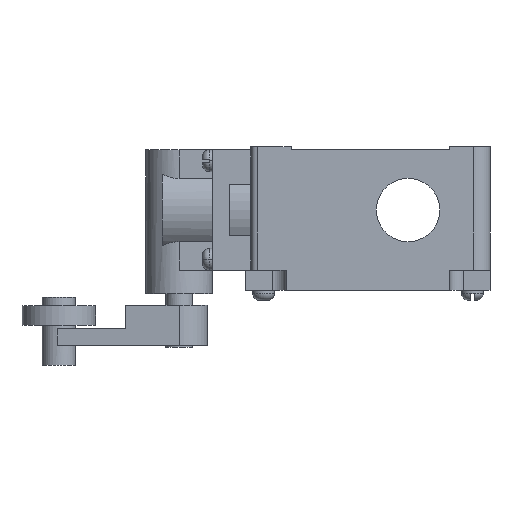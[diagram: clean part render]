
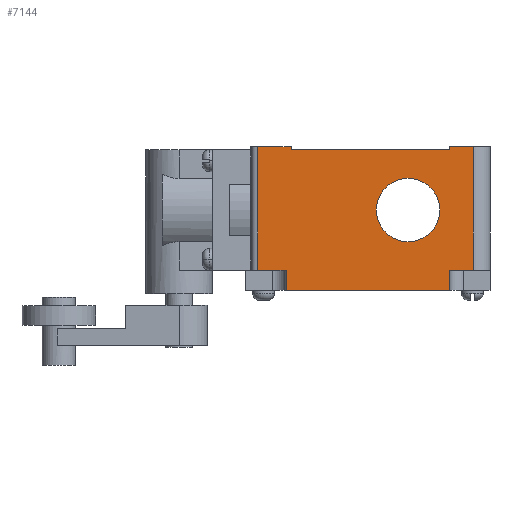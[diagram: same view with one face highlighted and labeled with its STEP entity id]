
A CAD part, front view. The second image highlights one B-rep face of the part: STEP entity #7144.
In plain terms, the highlighted planar face has unit normal (0, -1, 0).
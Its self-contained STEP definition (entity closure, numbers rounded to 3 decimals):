
#273 = DIRECTION ( 'NONE',  ( 0., 1., 0. ) ) ;
#276 = DIRECTION ( 'NONE',  ( -1., 0., 0. ) ) ;
#277 = CARTESIAN_POINT ( 'NONE',  ( 17., -20., 24. ) ) ;
#399 = LINE ( 'NONE', #3375, #403 ) ;
#403 = VECTOR ( 'NONE', #3370, 1000. ) ;
#552 = CIRCLE ( 'NONE', #2007, 9.5 ) ;
#664 = VECTOR ( 'NONE', #7501, 1000. ) ;
#873 = AXIS2_PLACEMENT_3D ( 'NONE', #5830, #5831, #5832 ) ;
#968 = AXIS2_PLACEMENT_3D ( 'NONE', #2678, #2687, #2688 ) ;
#1046 = CARTESIAN_POINT ( 'NONE',  ( 29.5, -20., 0. ) ) ;
#1047 = CARTESIAN_POINT ( 'NONE',  ( -19.5, -20., 0. ) ) ;
#1090 = CARTESIAN_POINT ( 'NONE',  ( -19.5, -20., 6. ) ) ;
#1091 = CARTESIAN_POINT ( 'NONE',  ( -28., -20., 6. ) ) ;
#1130 = CARTESIAN_POINT ( 'NONE',  ( -28., -20., 43. ) ) ;
#1135 = CARTESIAN_POINT ( 'NONE',  ( -18., -20., 43. ) ) ;
#1136 = CARTESIAN_POINT ( 'NONE',  ( 29.5, -20., 43. ) ) ;
#1138 = CARTESIAN_POINT ( 'NONE',  ( 36.5, -20., 43. ) ) ;
#1150 = CARTESIAN_POINT ( 'NONE',  ( 29.5, -20., 42. ) ) ;
#1151 = CARTESIAN_POINT ( 'NONE',  ( 29.5, -20., 6. ) ) ;
#1153 = CARTESIAN_POINT ( 'NONE',  ( 36.5, -20., 6. ) ) ;
#1155 = CARTESIAN_POINT ( 'NONE',  ( -18., -20., 42. ) ) ;
#1325 = EDGE_CURVE ( 'NONE', #5407, #5406, #399, .T. ) ;
#1422 = EDGE_CURVE ( 'NONE', #3868, #3869, #552, .T. ) ;
#1857 = EDGE_CURVE ( 'NONE', #5450, #5451, #4257, .T. ) ;
#1860 = EDGE_CURVE ( 'NONE', #5513, #5498, #4262, .T. ) ;
#2007 = AXIS2_PLACEMENT_3D ( 'NONE', #277, #273, #276 ) ;
#2291 = DIRECTION ( 'NONE',  ( 0., 0., 1. ) ) ;
#2293 = CARTESIAN_POINT ( 'NONE',  ( 36.5, -20., 43. ) ) ;
#2305 = DIRECTION ( 'NONE',  ( -1., 0., 0. ) ) ;
#2307 = CARTESIAN_POINT ( 'NONE',  ( -30., -20., 6. ) ) ;
#2678 = CARTESIAN_POINT ( 'NONE',  ( -41.5, -20., 43. ) ) ;
#2682 = PLANE ( 'NONE',  #968 ) ;
#2687 = DIRECTION ( 'NONE',  ( 0., 1., 0. ) ) ;
#2688 = DIRECTION ( 'NONE',  ( -1., 0., 0. ) ) ;
#3136 = EDGE_LOOP ( 'NONE', ( #3226, #3227, #3228, #3229, #3230, #3231, #3232, #3233, #3234, #3235, #3236, #3237 ) ) ;
#3137 = EDGE_LOOP ( 'NONE', ( #3224, #3225 ) ) ;
#3224 = ORIENTED_EDGE ( 'NONE', *, *, #4585, .T. ) ;
#3225 = ORIENTED_EDGE ( 'NONE', *, *, #1422, .T. ) ;
#3226 = ORIENTED_EDGE ( 'NONE', *, *, #4536, .F. ) ;
#3227 = ORIENTED_EDGE ( 'NONE', *, *, #1860, .T. ) ;
#3228 = ORIENTED_EDGE ( 'NONE', *, *, #4626, .F. ) ;
#3229 = ORIENTED_EDGE ( 'NONE', *, *, #4539, .F. ) ;
#3230 = ORIENTED_EDGE ( 'NONE', *, *, #5263, .F. ) ;
#3231 = ORIENTED_EDGE ( 'NONE', *, *, #5264, .T. ) ;
#3232 = ORIENTED_EDGE ( 'NONE', *, *, #4631, .F. ) ;
#3233 = ORIENTED_EDGE ( 'NONE', *, *, #5265, .T. ) ;
#3234 = ORIENTED_EDGE ( 'NONE', *, *, #1857, .F. ) ;
#3235 = ORIENTED_EDGE ( 'NONE', *, *, #5266, .T. ) ;
#3236 = ORIENTED_EDGE ( 'NONE', *, *, #1325, .T. ) ;
#3237 = ORIENTED_EDGE ( 'NONE', *, *, #5267, .F. ) ;
#3370 = DIRECTION ( 'NONE',  ( 1., 0., 0. ) ) ;
#3375 = CARTESIAN_POINT ( 'NONE',  ( -41.5, -20., 0. ) ) ;
#3868 = VERTEX_POINT ( 'NONE', #7443 ) ;
#3869 = VERTEX_POINT ( 'NONE', #7444 ) ;
#4257 = LINE ( 'NONE', #2307, #4259 ) ;
#4259 = VECTOR ( 'NONE', #2305, 1000. ) ;
#4262 = LINE ( 'NONE', #2293, #4264 ) ;
#4264 = VECTOR ( 'NONE', #2291, 1000. ) ;
#4443 = LINE ( 'NONE', #7492, #664 ) ;
#4536 = EDGE_CURVE ( 'NONE', #5513, #5511, #4443, .T. ) ;
#4539 = EDGE_CURVE ( 'NONE', #5510, #5496, #4977, .T. ) ;
#4585 = EDGE_CURVE ( 'NONE', #3869, #3868, #5056, .T. ) ;
#4626 = EDGE_CURVE ( 'NONE', #5496, #5498, #5125, .T. ) ;
#4631 = EDGE_CURVE ( 'NONE', #5490, #5495, #5130, .T. ) ;
#4977 = LINE ( 'NONE', #7500, #4978 ) ;
#4978 = VECTOR ( 'NONE', #7505, 1000. ) ;
#5056 = CIRCLE ( 'NONE', #873, 9.5 ) ;
#5125 = LINE ( 'NONE', #5923, #5127 ) ;
#5127 = VECTOR ( 'NONE', #5920, 1000. ) ;
#5130 = LINE ( 'NONE', #5930, #5137 ) ;
#5137 = VECTOR ( 'NONE', #5937, 1000. ) ;
#5176 = LINE ( 'NONE', #5996, #5190 ) ;
#5189 = LINE ( 'NONE', #5997, #5192 ) ;
#5190 = VECTOR ( 'NONE', #5998, 1000. ) ;
#5191 = LINE ( 'NONE', #6004, #5194 ) ;
#5192 = VECTOR ( 'NONE', #6003, 1000. ) ;
#5193 = LINE ( 'NONE', #6006, #5196 ) ;
#5194 = VECTOR ( 'NONE', #6005, 1000. ) ;
#5195 = LINE ( 'NONE', #6008, #5198 ) ;
#5196 = VECTOR ( 'NONE', #6007, 1000. ) ;
#5198 = VECTOR ( 'NONE', #6009, 1000. ) ;
#5263 = EDGE_CURVE ( 'NONE', #5515, #5510, #5176, .T. ) ;
#5264 = EDGE_CURVE ( 'NONE', #5515, #5495, #5189, .T. ) ;
#5265 = EDGE_CURVE ( 'NONE', #5490, #5451, #5191, .T. ) ;
#5266 = EDGE_CURVE ( 'NONE', #5450, #5407, #5193, .T. ) ;
#5267 = EDGE_CURVE ( 'NONE', #5511, #5406, #5195, .T. ) ;
#5406 = VERTEX_POINT ( 'NONE', #1046 ) ;
#5407 = VERTEX_POINT ( 'NONE', #1047 ) ;
#5450 = VERTEX_POINT ( 'NONE', #1090 ) ;
#5451 = VERTEX_POINT ( 'NONE', #1091 ) ;
#5490 = VERTEX_POINT ( 'NONE', #1130 ) ;
#5495 = VERTEX_POINT ( 'NONE', #1135 ) ;
#5496 = VERTEX_POINT ( 'NONE', #1136 ) ;
#5498 = VERTEX_POINT ( 'NONE', #1138 ) ;
#5510 = VERTEX_POINT ( 'NONE', #1150 ) ;
#5511 = VERTEX_POINT ( 'NONE', #1151 ) ;
#5513 = VERTEX_POINT ( 'NONE', #1153 ) ;
#5515 = VERTEX_POINT ( 'NONE', #1155 ) ;
#5830 = CARTESIAN_POINT ( 'NONE',  ( 17., -20., 24. ) ) ;
#5831 = DIRECTION ( 'NONE',  ( 0., 1., 0. ) ) ;
#5832 = DIRECTION ( 'NONE',  ( -1., 0., 0. ) ) ;
#5920 = DIRECTION ( 'NONE',  ( 1., 0., 0. ) ) ;
#5923 = CARTESIAN_POINT ( 'NONE',  ( -41.5, -20., 43. ) ) ;
#5930 = CARTESIAN_POINT ( 'NONE',  ( -41.5, -20., 43. ) ) ;
#5937 = DIRECTION ( 'NONE',  ( 1., 0., 0. ) ) ;
#5996 = CARTESIAN_POINT ( 'NONE',  ( 29.5, -20., 42. ) ) ;
#5997 = CARTESIAN_POINT ( 'NONE',  ( -18., -20., 42. ) ) ;
#5998 = DIRECTION ( 'NONE',  ( 1., 0., 0. ) ) ;
#6003 = DIRECTION ( 'NONE',  ( 0., 0., 1. ) ) ;
#6004 = CARTESIAN_POINT ( 'NONE',  ( -28., -20., 43. ) ) ;
#6005 = DIRECTION ( 'NONE',  ( 0., 0., -1. ) ) ;
#6006 = CARTESIAN_POINT ( 'NONE',  ( -19.5, -20., 6. ) ) ;
#6007 = DIRECTION ( 'NONE',  ( 0., 0., -1. ) ) ;
#6008 = CARTESIAN_POINT ( 'NONE',  ( 29.5, -20., 6. ) ) ;
#6009 = DIRECTION ( 'NONE',  ( 0., 0., -1. ) ) ;
#6866 = FACE_BOUND ( 'NONE', #3137, .T. ) ;
#6869 = FACE_OUTER_BOUND ( 'NONE', #3136, .T. ) ;
#7144 = ADVANCED_FACE ( 'NONE', ( #6866, #6869 ), #2682, .F. ) ;
#7443 = CARTESIAN_POINT ( 'NONE',  ( 26.5, -20., 24. ) ) ;
#7444 = CARTESIAN_POINT ( 'NONE',  ( 7.5, -20., 24. ) ) ;
#7492 = CARTESIAN_POINT ( 'NONE',  ( 41.5, -20., 6. ) ) ;
#7500 = CARTESIAN_POINT ( 'NONE',  ( 29.5, -20., 42. ) ) ;
#7501 = DIRECTION ( 'NONE',  ( -1., 0., 0. ) ) ;
#7505 = DIRECTION ( 'NONE',  ( 0., 0., 1. ) ) ;
